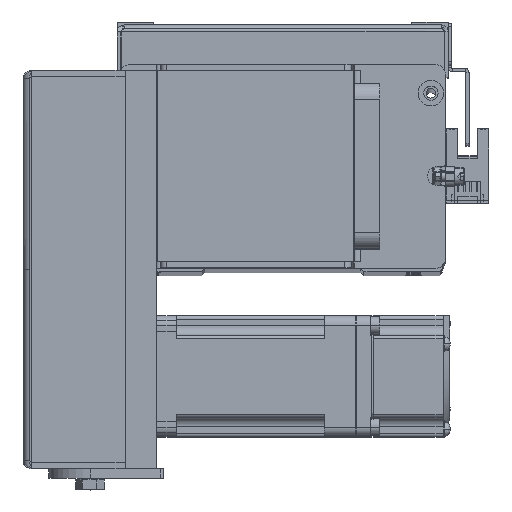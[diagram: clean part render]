
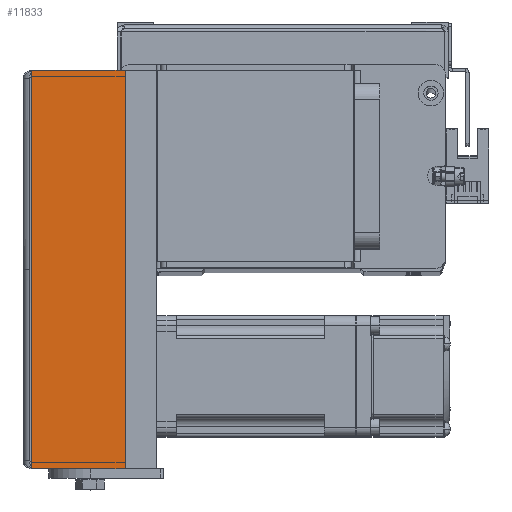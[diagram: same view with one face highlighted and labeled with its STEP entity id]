
A CAD part, top view. The second image highlights one B-rep face of the part: STEP entity #11833.
In plain terms, the highlighted planar face has unit normal (0, 0, 1) as drawn and (0, 0, -1) by its records, which use the part's own axes.
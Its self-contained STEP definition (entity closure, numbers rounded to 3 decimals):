
#224 = LINE ( 'NONE', #25571, #21730 ) ;
#2618 = EDGE_CURVE ( 'NONE', #33776, #32973, #4606, .T. ) ;
#2712 = CARTESIAN_POINT ( 'NONE',  ( 62.5, 0., -31. ) ) ;
#3770 = DIRECTION ( 'NONE',  ( 1., 0., 0. ) ) ;
#4299 = ORIENTED_EDGE ( 'NONE', *, *, #2618, .F. ) ;
#4606 = LINE ( 'NONE', #36385, #21987 ) ;
#6144 = ORIENTED_EDGE ( 'NONE', *, *, #25642, .F. ) ;
#7803 = CARTESIAN_POINT ( 'NONE',  ( -62.5, -29.5, -31. ) ) ;
#8357 = VECTOR ( 'NONE', #19430, 1000. ) ;
#9868 = CARTESIAN_POINT ( 'NONE',  ( 0., 0., -31. ) ) ;
#10235 = CARTESIAN_POINT ( 'NONE',  ( -62.5, -29.5, -31. ) ) ;
#11013 = EDGE_CURVE ( 'NONE', #33776, #36393, #33881, .T. ) ;
#11831 = DIRECTION ( 'NONE',  ( 0., 1., 0. ) ) ;
#11833 = ADVANCED_FACE ( 'NONE', ( #24455 ), #23884, .F. ) ;
#13234 = VERTEX_POINT ( 'NONE', #2712 ) ;
#16216 = DIRECTION ( 'NONE',  ( 1., 0., 0. ) ) ;
#16373 = EDGE_CURVE ( 'NONE', #36393, #13234, #35360, .T. ) ;
#16494 = CARTESIAN_POINT ( 'NONE',  ( -62.5, 0., -31. ) ) ;
#19430 = DIRECTION ( 'NONE',  ( 0., 1., 0. ) ) ;
#20239 = AXIS2_PLACEMENT_3D ( 'NONE', #35459, #32983, #21207 ) ;
#21207 = DIRECTION ( 'NONE',  ( 0., 1., 0. ) ) ;
#21730 = VECTOR ( 'NONE', #11831, 1000. ) ;
#21987 = VECTOR ( 'NONE', #16216, 1000. ) ;
#22543 = ORIENTED_EDGE ( 'NONE', *, *, #11013, .T. ) ;
#23884 = PLANE ( 'NONE',  #20239 ) ;
#24057 = ORIENTED_EDGE ( 'NONE', *, *, #16373, .T. ) ;
#24455 = FACE_OUTER_BOUND ( 'NONE', #29904, .T. ) ;
#24595 = VECTOR ( 'NONE', #3770, 1000. ) ;
#25571 = CARTESIAN_POINT ( 'NONE',  ( 62.5, -29.5, -31. ) ) ;
#25642 = EDGE_CURVE ( 'NONE', #32973, #13234, #224, .T. ) ;
#29904 = EDGE_LOOP ( 'NONE', ( #4299, #22543, #24057, #6144 ) ) ;
#32973 = VERTEX_POINT ( 'NONE', #35282 ) ;
#32983 = DIRECTION ( 'NONE',  ( 0., 0., 1. ) ) ;
#33776 = VERTEX_POINT ( 'NONE', #10235 ) ;
#33881 = LINE ( 'NONE', #7803, #8357 ) ;
#35282 = CARTESIAN_POINT ( 'NONE',  ( 62.5, -29.5, -31. ) ) ;
#35360 = LINE ( 'NONE', #9868, #24595 ) ;
#35459 = CARTESIAN_POINT ( 'NONE',  ( 0., -30., -31. ) ) ;
#36385 = CARTESIAN_POINT ( 'NONE',  ( 62.5, -29.5, -31. ) ) ;
#36393 = VERTEX_POINT ( 'NONE', #16494 ) ;
